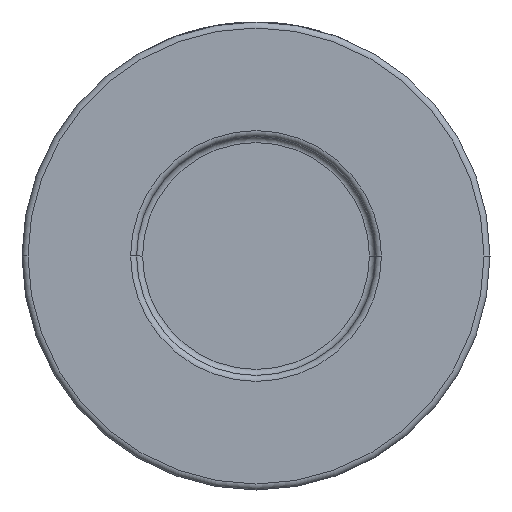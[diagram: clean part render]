
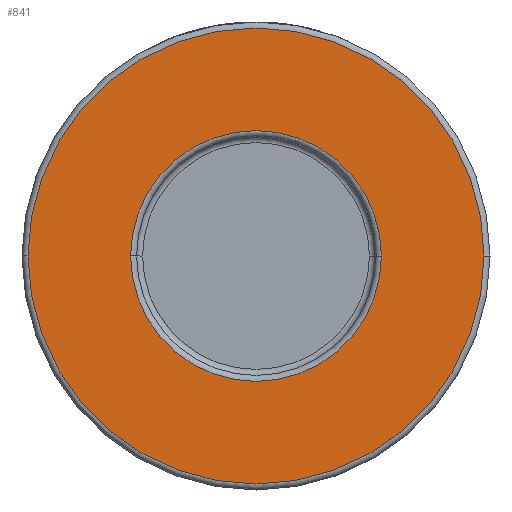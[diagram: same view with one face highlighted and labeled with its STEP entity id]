
A CAD part, front view. The second image highlights one B-rep face of the part: STEP entity #841.
In plain terms, the highlighted planar face has unit normal (0, -1, 0).
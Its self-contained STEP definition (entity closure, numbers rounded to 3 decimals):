
#47 = CARTESIAN_POINT ( 'NONE',  ( -38., -19., 0. ) ) ;
#160 = CARTESIAN_POINT ( 'NONE',  ( 0., -19., 0. ) ) ;
#276 = DIRECTION ( 'NONE',  ( 0., 1., 0. ) ) ;
#338 = EDGE_CURVE ( 'NONE', #1216, #2369, #1417, .T. ) ;
#463 = AXIS2_PLACEMENT_3D ( 'NONE', #999, #3810, #649 ) ;
#649 = DIRECTION ( 'NONE',  ( 1., 0., 0. ) ) ;
#685 = DIRECTION ( 'NONE',  ( 0., -1., 0. ) ) ;
#841 = ADVANCED_FACE ( 'NONE', ( #3113, #4152 ), #3740, .T. ) ;
#863 = AXIS2_PLACEMENT_3D ( 'NONE', #160, #2879, #2551 ) ;
#999 = CARTESIAN_POINT ( 'NONE',  ( 39., -19., 0. ) ) ;
#1031 = ORIENTED_EDGE ( 'NONE', *, *, #4164, .T. ) ;
#1058 = CARTESIAN_POINT ( 'NONE',  ( 0., -19., 0. ) ) ;
#1216 = VERTEX_POINT ( 'NONE', #3389 ) ;
#1311 = AXIS2_PLACEMENT_3D ( 'NONE', #4127, #276, #1682 ) ;
#1417 = CIRCLE ( 'NONE', #3996, 20.9 ) ;
#1455 = AXIS2_PLACEMENT_3D ( 'NONE', #1058, #685, #2436 ) ;
#1682 = DIRECTION ( 'NONE',  ( 1., 0., 0. ) ) ;
#1693 = ORIENTED_EDGE ( 'NONE', *, *, #2672, .T. ) ;
#1935 = DIRECTION ( 'NONE',  ( 0., 1., 0. ) ) ;
#2038 = VERTEX_POINT ( 'NONE', #2635 ) ;
#2317 = ORIENTED_EDGE ( 'NONE', *, *, #338, .T. ) ;
#2339 = CIRCLE ( 'NONE', #863, 38. ) ;
#2363 = EDGE_LOOP ( 'NONE', ( #2317, #1031 ) ) ;
#2369 = VERTEX_POINT ( 'NONE', #3901 ) ;
#2417 = CIRCLE ( 'NONE', #1455, 38. ) ;
#2436 = DIRECTION ( 'NONE',  ( 1., 0., 0. ) ) ;
#2551 = DIRECTION ( 'NONE',  ( 1., 0., 0. ) ) ;
#2589 = VERTEX_POINT ( 'NONE', #47 ) ;
#2635 = CARTESIAN_POINT ( 'NONE',  ( 38., -19., 0. ) ) ;
#2672 = EDGE_CURVE ( 'NONE', #2038, #2589, #2339, .T. ) ;
#2709 = EDGE_LOOP ( 'NONE', ( #1693, #3018 ) ) ;
#2788 = CIRCLE ( 'NONE', #1311, 20.9 ) ;
#2879 = DIRECTION ( 'NONE',  ( 0., -1., 0. ) ) ;
#3018 = ORIENTED_EDGE ( 'NONE', *, *, #3266, .T. ) ;
#3113 = FACE_BOUND ( 'NONE', #2363, .T. ) ;
#3266 = EDGE_CURVE ( 'NONE', #2589, #2038, #2417, .T. ) ;
#3343 = DIRECTION ( 'NONE',  ( 1., 0., 0. ) ) ;
#3389 = CARTESIAN_POINT ( 'NONE',  ( 20.9, -19., 0. ) ) ;
#3740 = PLANE ( 'NONE',  #463 ) ;
#3810 = DIRECTION ( 'NONE',  ( 0., -1., 0. ) ) ;
#3901 = CARTESIAN_POINT ( 'NONE',  ( -20.9, -19., 0. ) ) ;
#3996 = AXIS2_PLACEMENT_3D ( 'NONE', #4377, #1935, #3343 ) ;
#4127 = CARTESIAN_POINT ( 'NONE',  ( 0., -19., 0. ) ) ;
#4152 = FACE_OUTER_BOUND ( 'NONE', #2709, .T. ) ;
#4164 = EDGE_CURVE ( 'NONE', #2369, #1216, #2788, .T. ) ;
#4377 = CARTESIAN_POINT ( 'NONE',  ( 0., -19., 0. ) ) ;
